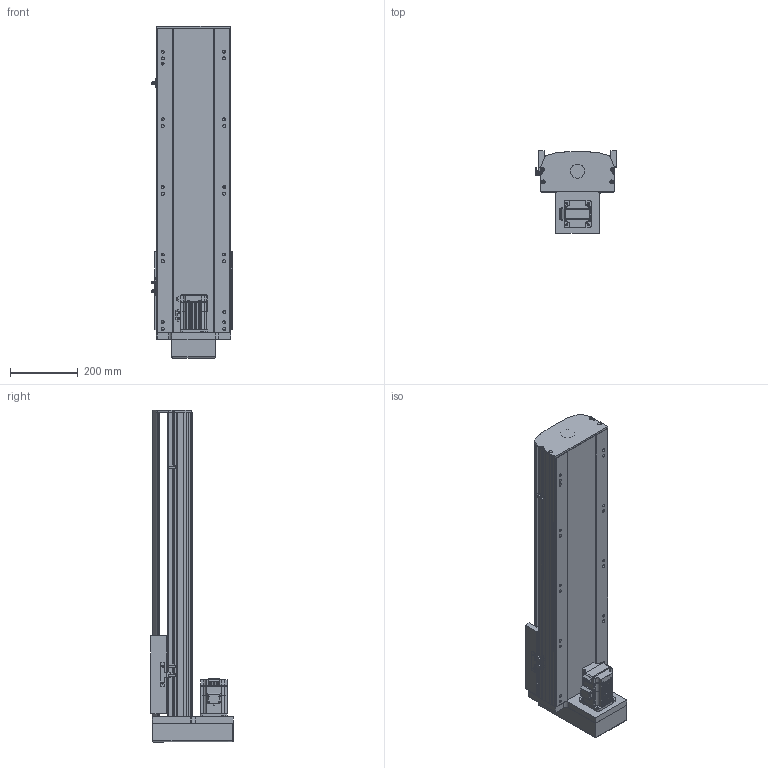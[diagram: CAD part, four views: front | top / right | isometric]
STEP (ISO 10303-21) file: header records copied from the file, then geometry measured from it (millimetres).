
FILE_DESCRIPTION (( 'STEP AP214' ), '1' );
FILE_NAME ('QTH22-600-BM-P75.STEP', '2021-12-13T12:10:02', ( '' ), ( '' ), 'SwSTEP 2.0', 'SolidWorks 2020', '' );
FILE_SCHEMA (( 'AUTOMOTIVE_DESIGN' ));
Length unit declared in the file: millimetre
Products named in the file (6): 葩璃 QTH22-BM-002 奻裔MZ-220-02^QTH22-BM-P75; 葩璃 QTH22-BC-005 賑釱MZ-220-03^QTH22-BM-P75_SFA25; 葩璃 QTH22-BM-001 菁釱MZ-220-01^QTH22-BM-P75; QTH22-600-BM-P75; 葩璃 pm-t65-672^QTH22-BM-P75; 葩璃 MSMD08PC_P75^QTH22-BM-P75
Assembly tree (7 placements, depth 2):
  QTH22-600-BM-P75
    葩璃 QTH22-BM-001 菁釱MZ-220-01^QTH22-BM-P75
    葩璃 QTH22-BM-002 奻裔MZ-220-02^QTH22-BM-P75
    葩璃 QTH22-BC-005 賑釱MZ-220-03^QTH22-BM-P75_SFA25
    葩璃 pm-t65-672^QTH22-BM-P75  x3
    葩璃 MSMD08PC_P75^QTH22-BM-P75
Bounding box: 238.7 x 244 x 982 mm (x, y, z)
Volume: 14535518.4 mm3; surface area: 1585471.1 mm2
Topology: 11 solids, 11 shells, 1545 faces, 4108 edges, 2635 vertices
Faces by surface type: plane 914, cylinder 527, cone 82, bspline 22
Entity records: 43203 total; most frequent: CARTESIAN_POINT 9049, DIRECTION 6895, ORIENTED_EDGE 6792, EDGE_CURVE 3396, VECTOR 2319, LINE 2319, AXIS2_PLACEMENT_3D 2288, VERTEX_POINT 2211
